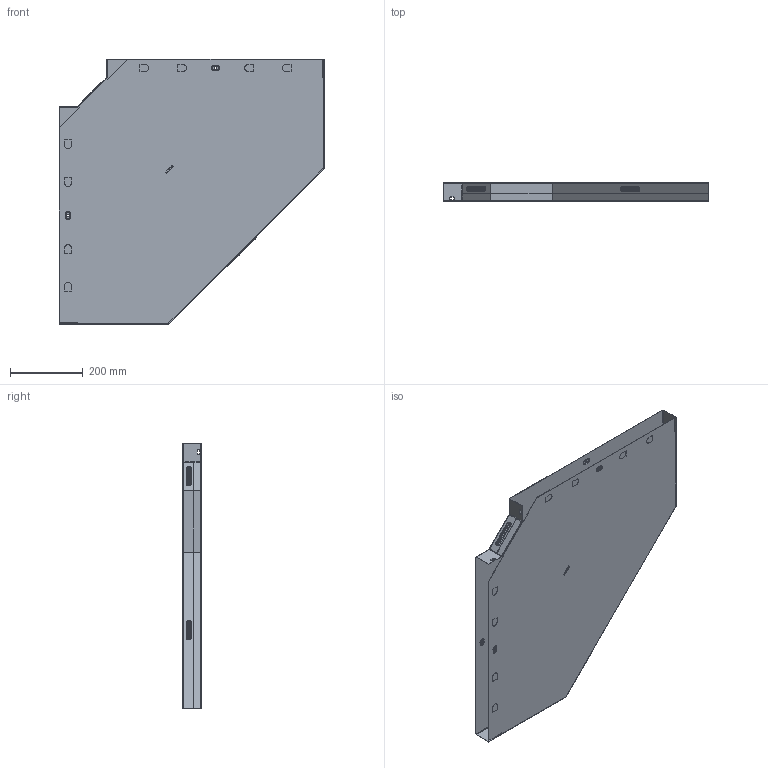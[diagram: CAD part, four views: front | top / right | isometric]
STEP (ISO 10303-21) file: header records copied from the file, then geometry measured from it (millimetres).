
FILE_DESCRIPTION (( 'STEP AP214' ), '1' );
FILE_NAME ('g9050600_捘.STEP', '2019-06-10T09:53:23', ( '砐錪賧瘔蠈錪 Windows' ), ( '' ), 'SwSTEP 2.0', 'SolidWorks 2018', '' );
FILE_SCHEMA (( 'AUTOMOTIVE_DESIGN' ));
Length unit declared in the file: millimetre
Products named in the file (1): g9050600_捘
Bounding box: 730.8 x 53.8 x 730.8 mm (x, y, z)
Volume: 759038.2 mm3; surface area: 1903518.6 mm2
Topology: 2 solids, 2 shells, 539 faces, 1461 edges, 942 vertices
Faces by surface type: plane 312, cylinder 137, torus 64, bspline 26
Entity records: 18246 total; most frequent: CARTESIAN_POINT 4419, ORIENTED_EDGE 2922, DIRECTION 2779, EDGE_CURVE 1461, VECTOR 1043, LINE 1043, VERTEX_POINT 942, AXIS2_PLACEMENT_3D 868
